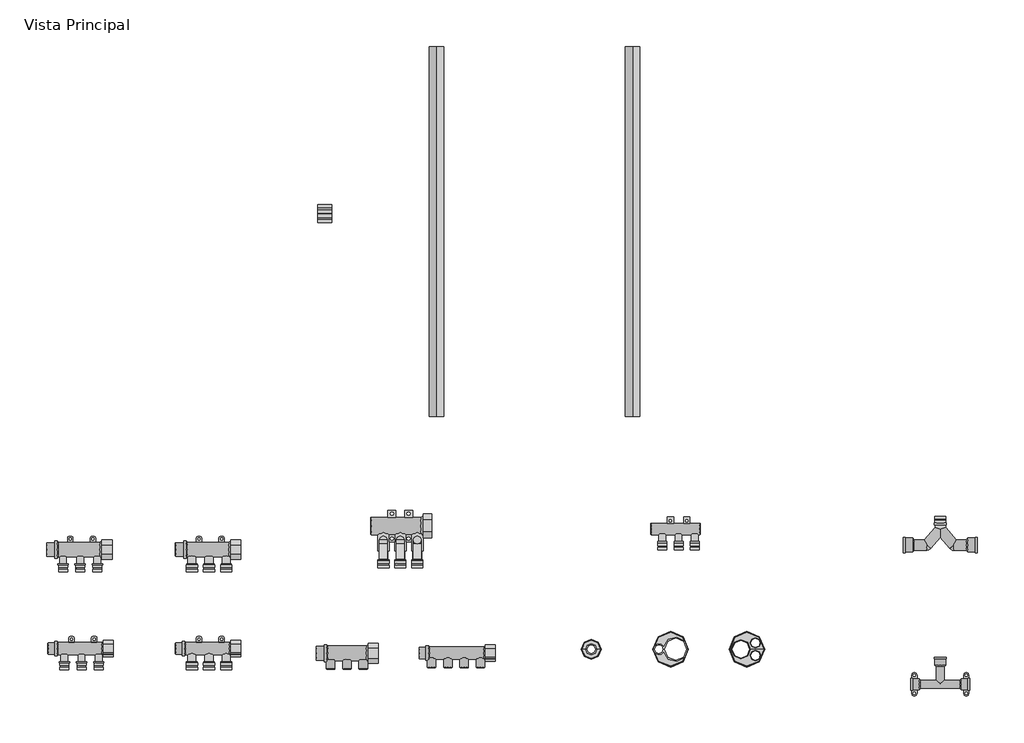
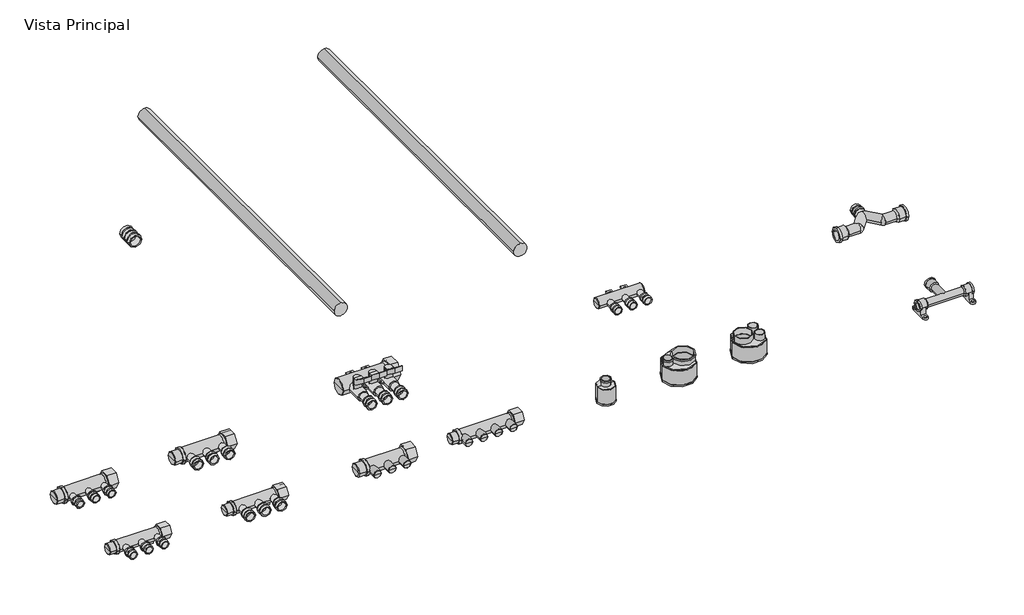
# One storey, incomplete: 14 pipe fittings, 2 pipe segments.
"""IFC4 building model written with IfcOpenShell, lengths in millimetres."""

from ifc_helpers import new_model, si_unit, point, frame, frame_2d, origin, place, context, project, spatial, circle_curve, trimmed, segment, composite_curve, outline, extrude, transform, mapped, element, save
from components import var_f646525f, var_654e6bfa, var_0a26a710, var_4ca37701, var_ee3ce5f6, var_be21ab8c, var_3e1717fb, var_b4d6ae51, var_84ef9f03, var_a0e1c215, var_1ea79091, var_8e960154, var_aad8315b, var_4e1bb249

model = new_model("IFC4")

# Units and contexts
model_context = context("Model", 3, world=origin())
ifc_project = project(units=[si_unit("LENGTHUNIT", "METRE", prefix="MILLI")], contexts=[model_context])

# Site, building, storey
site = spatial("IfcSite", under=ifc_project)
building = spatial("IfcBuilding", under=site)
storey = spatial("IfcBuildingStorey", under=building, Name="Vista Principal", Elevation=0.0)

# Pipe fittings
placement = place(None, origin())
var_shape = var_f646525f(model_context)
element("IfcPipeFitting", 1, ObjectType="AmancoWavin_ConexõesdeTubos_PEXUniãoMetálica : var.", at=placement, inside=storey, context=model_context, shape_type="MappedRepresentation", body=[
    mapped(var_shape, transform((86372.8143342, 47406.2608979, 0.0), x_axis=(0.0, 1.0, 0.0), y_axis=(-1.0, 0.0, 0.0), z_axis=(0.0, 0.0, 1.0))),
])
var_2_shape = var_654e6bfa(model_context)
element("IfcPipeFitting", 2, ObjectType="AmancoWavin_ConexõesdeTubos_PEXMódulodeDistribuiçãoMetálicocomVálvula : var.", at=placement, inside=storey, context=model_context, shape_type="MappedRepresentation", body=[
    mapped(var_2_shape, transform((86475.2104433, 46714.0135029, 0.0), x_axis=(1.0, 0.0, 0.0), y_axis=(0.0, 1.0, 0.0), z_axis=(0.0, 0.0, 1.0))),
])
var_3_shape = var_0a26a710(model_context)
element("IfcPipeFitting", 3, ObjectType="AmancoWavin_ConexõesdeTubos_PEXMódulodeDistribuiçãoMetálico1x1_2 : var.", at=placement, inside=storey, context=model_context, shape_type="MappedRepresentation", body=[
    mapped(var_3_shape, transform((86353.5302282, 46432.3056556, 0.0), x_axis=(1.0, 0.0, 0.0), y_axis=(0.0, 1.0, 0.0), z_axis=(0.0, 0.0, 1.0))),
])
var_4_shape = var_4ca37701(model_context)
element("IfcPipeFitting", 4, ObjectType="AmancoWavin_ConexõesdeTubos_PEXMódulodeDistribuiçãoMetálico3_4x1_2 : var.", at=placement, inside=storey, context=model_context, shape_type="MappedRepresentation", body=[
    mapped(var_4_shape, transform((86581.5624628, 46432.3056556, 0.0), x_axis=(1.0, 0.0, 0.0), y_axis=(0.0, 1.0, 0.0), z_axis=(0.0, 0.0, 1.0))),
])
var_5_shape = var_ee3ce5f6(model_context)
element("IfcPipeFitting", 5, ObjectType="AmancoWavin_ConexõesdeTubos_PEXCoifaTripla : var.", at=placement, inside=storey, context=model_context, shape_type="MappedRepresentation", body=[
    mapped(var_5_shape, transform((87376.2652028, 46441.1122753, 0.0), x_axis=(1.0, 0.0, 0.0), y_axis=(0.0, 1.0, 0.0), z_axis=(0.0, 0.0, 1.0))),
])
var_6_shape = var_be21ab8c(model_context)
element("IfcPipeFitting", 6, ObjectType="AmancoWavin_ConexõesdeTubos_PEXCoifaDupla : var.", at=placement, inside=storey, context=model_context, shape_type="MappedRepresentation", body=[
    mapped(var_6_shape, transform((87207.3708345, 46441.1122753, 0.0), x_axis=(1.0, 0.0, 0.0), y_axis=(0.0, 1.0, 0.0), z_axis=(0.0, 0.0, 1.0))),
])
var_7_shape = var_3e1717fb(model_context)
element("IfcPipeFitting", 7, ObjectType="AmancoWavin_ConexõesdeTubos_PEXCoifaSimple : var.", at=placement, inside=storey, context=model_context, shape_type="MappedRepresentation", body=[
    mapped(var_7_shape, transform((87031.7320723, 46441.1122753, 0.0), x_axis=(1.0, 0.0, 0.0), y_axis=(0.0, 1.0, 0.0), z_axis=(0.0, 0.0, 1.0))),
])
var_8_shape = var_b4d6ae51(model_context)
element("IfcPipeFitting", 8, ObjectType="AmancoWavin_ConexõesdeTubos_PEXMódulo de DistribuiçãoAberto1x16mm : var.", at=placement, inside=storey, context=model_context, shape_type="MappedRepresentation", body=[
    mapped(var_8_shape, transform((85756.7866143, 46661.8578828, 0.0), x_axis=(1.0, 0.0, 0.0), y_axis=(0.0, 1.0, 0.0), z_axis=(0.0, 0.0, 1.0))),
])
var_9_shape = var_84ef9f03(model_context)
element("IfcPipeFitting", 9, ObjectType="AmancoWavin_ConexõesdeTubos_PEXMódulodeDistribuiçãoAberto1x20mm : var.", at=placement, inside=storey, context=model_context, shape_type="MappedRepresentation", body=[
    mapped(var_9_shape, transform((86042.1151204, 46661.8578828, 0.0), x_axis=(1.0, 0.0, 0.0), y_axis=(0.0, 1.0, 0.0), z_axis=(0.0, 0.0, 1.0))),
])
var_10_shape = var_a0e1c215(model_context)
element("IfcPipeFitting", 10, ObjectType="AmancoWavin_ConexõesdeTubos_PEXMódulodeDistribuiçãoAberto3_4x16mm : var.", at=placement, inside=storey, context=model_context, shape_type="MappedRepresentation", body=[
    mapped(var_10_shape, transform((85759.7866143, 46442.3056556, 0.0), x_axis=(1.0, 0.0, 0.0), y_axis=(0.0, 1.0, 0.0), z_axis=(0.0, 0.0, 1.0))),
])
var_11_shape = var_1ea79091(model_context)
element("IfcPipeFitting", 11, ObjectType="AmancoWavin_ConexõesdeTubos_PEXMódulodeDistribuiçãoAberto3_4x20mm : var.", at=placement, inside=storey, context=model_context, shape_type="MappedRepresentation", body=[
    mapped(var_11_shape, transform((86042.1151204, 46442.3056556, 0.0), x_axis=(1.0, 0.0, 0.0), y_axis=(0.0, 1.0, 0.0), z_axis=(0.0, 0.0, 1.0))),
])
var_12_shape = var_8e960154(model_context)
element("IfcPipeFitting", 12, ObjectType="AmancoWavin_ConexõesdeTubos_PEXMódulodeDistribuiçãoFechado : var.", at=placement, inside=storey, context=model_context, shape_type="MappedRepresentation", body=[
    mapped(var_12_shape, transform((87094.3626456, 46707.703736, 0.0), x_axis=(1.0, 0.0, 0.0), y_axis=(0.0, 1.0, 0.0), z_axis=(0.0, 0.0, 1.0))),
])
var_13_shape = var_aad8315b(model_context)
element("IfcPipeFitting", 13, ObjectType="AmancoWavin_ConexõesdeTubos_PEXTêMisturadorcomFixação : var.", at=placement, inside=storey, context=model_context, shape_type="MappedRepresentation", body=[
    mapped(var_13_shape, transform((87735.8293732, 46363.4683536, 0.0), x_axis=(1.0, 0.0, 0.0), y_axis=(0.0, 1.0, 0.0), z_axis=(0.0, 0.0, 1.0))),
])
var_14_shape = var_4e1bb249(model_context)
element("IfcPipeFitting", 14, ObjectType="AmancoWavin_ConexõesdeTubos_PEXTêMisturadorMetálico : var.", at=placement, inside=storey, context=model_context, shape_type="MappedRepresentation", body=[
    mapped(var_14_shape, transform((87735.82676, 46671.9765306, 0.0), x_axis=(1.0, 0.0, 0.0), y_axis=(0.0, 1.0, 0.0), z_axis=(0.0, 0.0, 1.0))),
])

# Pipe segments
element("IfcPipeSegment", 15, ObjectType="Amanco Wavin PEX Curvas", at=placement, inside=storey, context=model_context, shape_type="SweptSolid", body=[
    extrude(outline(composite_curve([segment(trimmed(circle_curve(frame_2d((0.0, 86620.2845262)), 16.0), [point((0.0, 86604.2845262))], [point((-16.0, 86620.2845262))], False, "CARTESIAN"), True, "CONTINUOUS"), segment(trimmed(circle_curve(frame_2d((0.0, 86620.2845262)), 16.0), [point((-16.0, 86620.2845262))], [point((0.0, 86636.2845262))], False, "CARTESIAN"), True, "CONTINUOUS"), segment(trimmed(circle_curve(frame_2d((0.0, 86620.2845262)), 16.0), [point((0.0, 86636.2845262))], [point((16.0, 86620.2845262))], False, "CARTESIAN"), True, "CONTINUOUS"), segment(trimmed(circle_curve(frame_2d((0.0, 86620.2845262)), 16.0), [point((16.0, 86620.2845262))], [point((0.0, 86604.2845262))], False, "CARTESIAN"), True, "CONTINUOUS")], self_intersect=False)), frame((0.0, 46956.6662491, 0.0), z_axis=(0.0, 1.0, 0.0), x_axis=(0.0, 0.0, 1.0)), (0.0, 0.0, 1.0), 820.0),
])
element("IfcPipeSegment", 16, ObjectType="Amanco Wavin PEX Joelho", at=placement, inside=storey, context=model_context, shape_type="SweptSolid", body=[
    extrude(outline(composite_curve([segment(trimmed(circle_curve(frame_2d((0.0, 87054.3198558)), 16.0), [point((0.0, 87038.3198558))], [point((-16.0, 87054.3198558))], False, "CARTESIAN"), True, "CONTINUOUS"), segment(trimmed(circle_curve(frame_2d((0.0, 87054.3198558)), 16.0), [point((-16.0, 87054.3198558))], [point((0.0, 87070.3198558))], False, "CARTESIAN"), True, "CONTINUOUS"), segment(trimmed(circle_curve(frame_2d((0.0, 87054.3198558)), 16.0), [point((0.0, 87070.3198558))], [point((16.0, 87054.3198558))], False, "CARTESIAN"), True, "CONTINUOUS"), segment(trimmed(circle_curve(frame_2d((0.0, 87054.3198558)), 16.0), [point((16.0, 87054.3198558))], [point((0.0, 87038.3198558))], False, "CARTESIAN"), True, "CONTINUOUS")], self_intersect=False)), frame((0.0, 46956.6662491, 0.0), z_axis=(0.0, 1.0, 0.0), x_axis=(0.0, 0.0, 1.0)), (0.0, 0.0, 1.0), 820.0),
])

save(model, "model.ifc")
